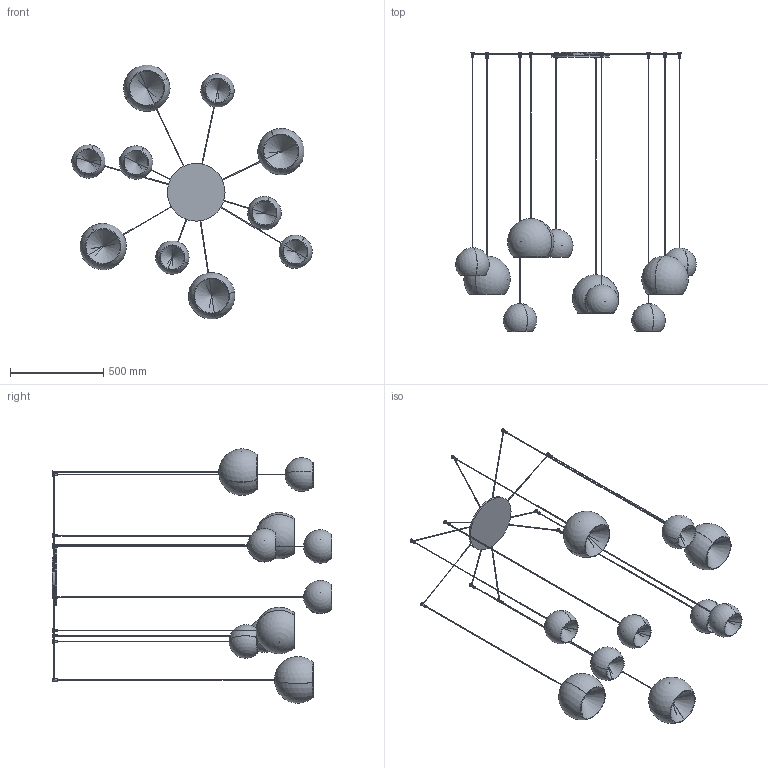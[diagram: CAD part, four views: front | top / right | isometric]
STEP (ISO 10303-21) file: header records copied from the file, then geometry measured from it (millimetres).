
FILE_DESCRIPTION (( 'STEP AP203' ), '1' );
FILE_NAME ('CRM11-00-CHERRY MIX_10 SOSPENSIONE.STEP', '2024-07-31T10:07:59', ( '' ), ( '' ), 'SwSTEP 2.0', 'SolidWorks 2022', '' );
FILE_SCHEMA (( 'CONFIG_CONTROL_DESIGN' ));
Length unit declared in the file: millimetre
Products named in the file (9): CHERRY MIX_Rosone diam.310_Cherry 11<A macchina>; CHERRY MIX_Lampada singola Diam.250_H=1600; CHERRY_Lampada singola Diam.180_H=1600; CHERRY_Lampada singola Diam.180_H=1500; CHERRY_Lampada singola Diam.180_H=1800; CHERRY MIX_Lampada singola Diam.250_H=1700; CHERRY_Lampada singola Diam.180_H=1900; CRM11-00-CHERRY MIX_10 SOSPENSIONE; CHERRY MIX_Lampada singola Diam.250_H=1900
Assembly tree (11 placements, depth 2):
  CRM11-00-CHERRY MIX_10 SOSPENSIONE
    CHERRY MIX_Rosone diam.310_Cherry 11<A macchina>
    CHERRY_Lampada singola Diam.180_H=1600
    CHERRY MIX_Lampada singola Diam.250_H=1700  x2
    CHERRY_Lampada singola Diam.180_H=1500  x2
    CHERRY_Lampada singola Diam.180_H=1800  x2
    CHERRY MIX_Lampada singola Diam.250_H=1600
    CHERRY_Lampada singola Diam.180_H=1900
    CHERRY MIX_Lampada singola Diam.250_H=1900
Bounding box: 1290.79 x 1500 x 1365.1 mm (x, y, z)
Volume: 3992662.7 mm3; surface area: 3255072.4 mm2
Topology: 51 solids, 51 shells, 388 faces, 916 edges, 571 vertices
Faces by surface type: cylinder 191, plane 117, sphere 40, cone 40
Entity records: 9023 total; most frequent: CARTESIAN_POINT 1935, DIRECTION 1386, ORIENTED_EDGE 1156, AXIS2_PLACEMENT_3D 614, EDGE_CURVE 578, VERTEX_POINT 379, EDGE_LOOP 321, CIRCLE 308
